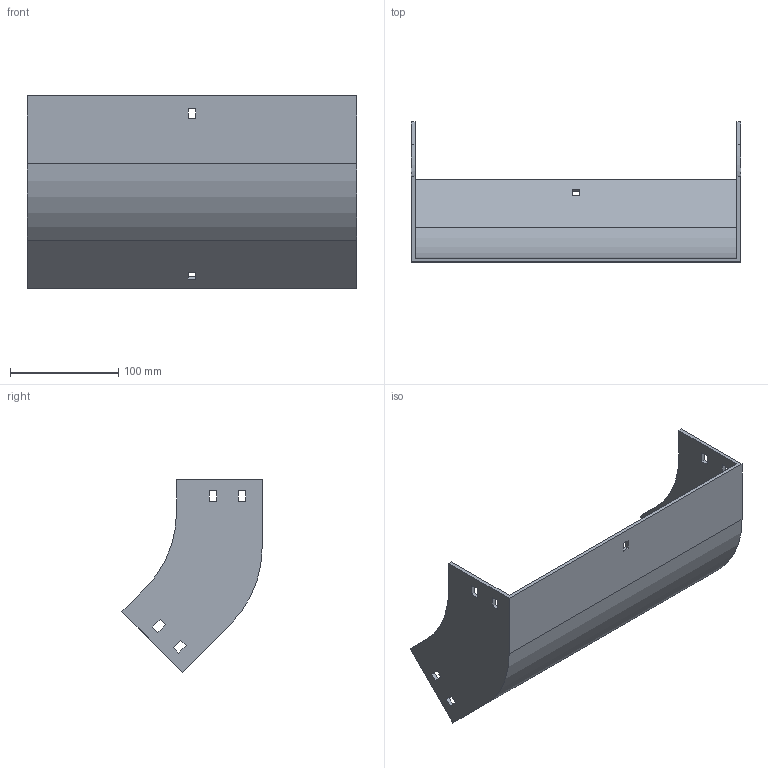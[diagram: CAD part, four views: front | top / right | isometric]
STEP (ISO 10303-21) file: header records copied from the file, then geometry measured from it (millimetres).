
FILE_DESCRIPTION (( 'STEP AP214' ), '1' );
FILE_NAME ('31F1C300.step', '2025-02-21T13:00:44', ( '' ), ( '' ), 'SwSTEP 2.0', 'SolidWorks 2023', '' );
FILE_SCHEMA (( 'AUTOMOTIVE_DESIGN' ));
Length unit declared in the file: millimetre
Products named in the file (1): 31F1C300
Bounding box: 304 x 129.5 x 177.79 mm (x, y, z)
Volume: 305332.5 mm3; surface area: 179809.1 mm2
Topology: 1 solids, 1 shells, 58 faces, 168 edges, 112 vertices
Faces by surface type: plane 54, cylinder 4
Entity records: 1943 total; most frequent: CARTESIAN_POINT 339, ORIENTED_EDGE 336, DIRECTION 294, EDGE_CURVE 168, VECTOR 160, LINE 160, VERTEX_POINT 112, EDGE_LOOP 78
